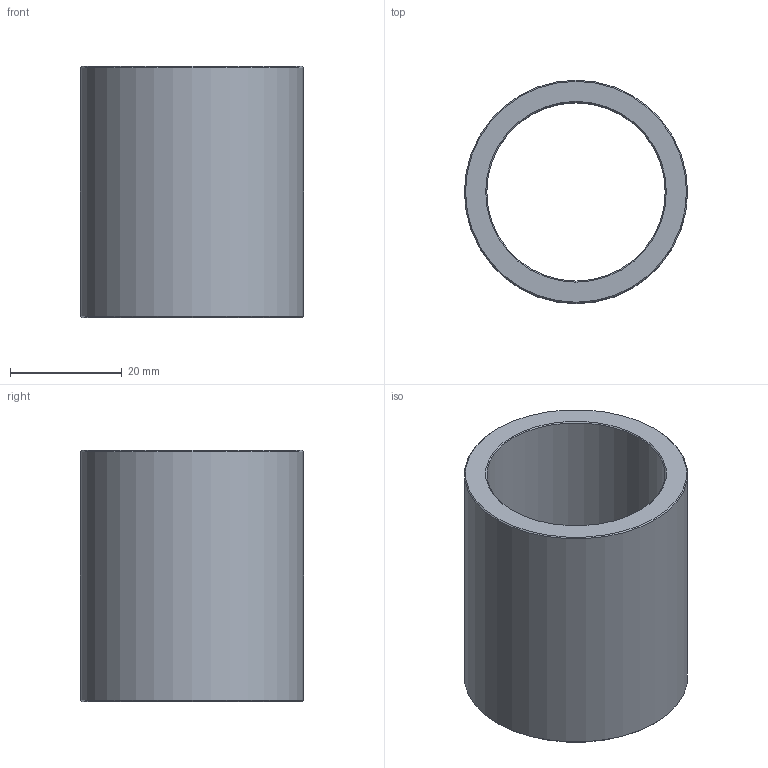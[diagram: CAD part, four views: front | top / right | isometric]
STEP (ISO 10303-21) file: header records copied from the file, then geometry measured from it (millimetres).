
FILE_DESCRIPTION(('STEP AP203'),'1');
FILE_NAME('C:/Users/Rodrigo/Desktop/GA4.032.045-1.step','2016-11-07T17:20:08',(' '),(' '),'Spatial InterOp 3D',' ',' ');
FILE_SCHEMA(('CONFIG_CONTROL_DESIGN'));
Length unit declared in the file: millimetre
Products named in the file (1): 1
Bounding box: 40 x 40 x 45 mm (x, y, z)
Volume: 20348.5 mm3; surface area: 11030.5 mm2
Topology: 1 solids, 1 shells, 8 faces, 14 edges, 8 vertices
Faces by surface type: cone 4, cylinder 2, plane 2
Full cylindrical faces by diameter (mm): 32 x1, 40 x1
Entity records: 212 total; most frequent: DIRECTION 34, CARTESIAN_POINT 25, AXIS2_PLACEMENT_3D 17, EDGE_LOOP 16, ORIENTED_EDGE 16, FACE_OUTER_BOUND 10, ADVANCED_FACE 8, EDGE_CURVE 8
